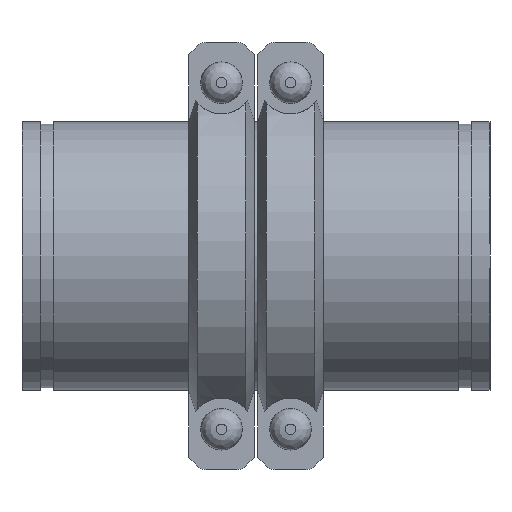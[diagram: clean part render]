
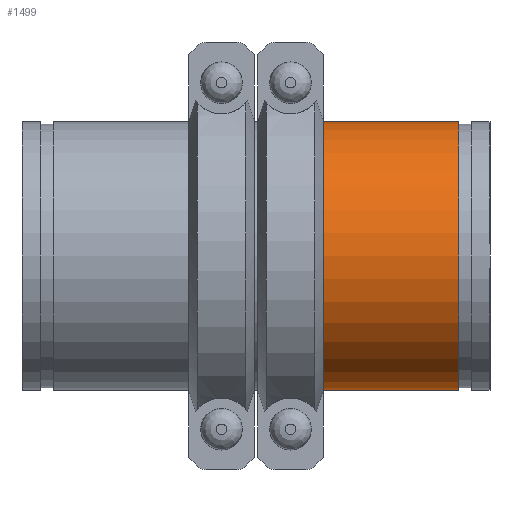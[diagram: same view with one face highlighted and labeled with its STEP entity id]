
A CAD part, front view. The second image highlights one B-rep face of the part: STEP entity #1499.
In plain terms, the highlighted cylindrical face has radius 136.525 mm (diameter 273.05 mm), a full revolution.
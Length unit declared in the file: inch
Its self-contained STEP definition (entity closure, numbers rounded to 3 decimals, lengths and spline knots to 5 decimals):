
#71=LINE('',#2396,#160);
#160=VECTOR('',#1941,5.375);
#249=CYLINDRICAL_SURFACE('',#1719,5.375);
#310=FACE_OUTER_BOUND('',#399,.T.);
#399=EDGE_LOOP('',(#980,#981,#982,#983,#984,#985));
#513=CIRCLE('',#1717,5.375);
#514=CIRCLE('',#1718,5.375);
#515=CIRCLE('',#1720,5.375);
#516=CIRCLE('',#1721,5.375);
#609=VERTEX_POINT('',#2387);
#610=VERTEX_POINT('',#2388);
#611=VERTEX_POINT('',#2392);
#612=VERTEX_POINT('',#2393);
#758=EDGE_CURVE('',#609,#610,#513,.T.);
#759=EDGE_CURVE('',#610,#609,#514,.T.);
#760=EDGE_CURVE('',#611,#612,#515,.T.);
#761=EDGE_CURVE('',#612,#611,#516,.T.);
#762=EDGE_CURVE('',#612,#610,#71,.T.);
#980=ORIENTED_EDGE('',*,*,#760,.F.);
#981=ORIENTED_EDGE('',*,*,#761,.F.);
#982=ORIENTED_EDGE('',*,*,#762,.T.);
#983=ORIENTED_EDGE('',*,*,#759,.T.);
#984=ORIENTED_EDGE('',*,*,#758,.T.);
#985=ORIENTED_EDGE('',*,*,#762,.F.);
#1499=ADVANCED_FACE('',(#310),#249,.T.);
#1717=AXIS2_PLACEMENT_3D('',#2389,#1931,#1932);
#1718=AXIS2_PLACEMENT_3D('',#2390,#1933,#1934);
#1719=AXIS2_PLACEMENT_3D('',#2391,#1935,#1936);
#1720=AXIS2_PLACEMENT_3D('',#2394,#1937,#1938);
#1721=AXIS2_PLACEMENT_3D('',#2395,#1939,#1940);
#1931=DIRECTION('center_axis',(-1.,0.,0.));
#1932=DIRECTION('ref_axis',(0.,0.,1.));
#1933=DIRECTION('center_axis',(-1.,0.,0.));
#1934=DIRECTION('ref_axis',(0.,0.,1.));
#1935=DIRECTION('center_axis',(-1.,0.,0.));
#1936=DIRECTION('ref_axis',(0.,1.,0.));
#1937=DIRECTION('center_axis',(-1.,0.,0.));
#1938=DIRECTION('ref_axis',(0.,0.,1.));
#1939=DIRECTION('center_axis',(-1.,0.,0.));
#1940=DIRECTION('ref_axis',(0.,0.,1.));
#1941=DIRECTION('',(1.,0.,0.));
#2387=CARTESIAN_POINT('',(2.735,5.375,0.));
#2388=CARTESIAN_POINT('',(2.735,-5.375,0.));
#2389=CARTESIAN_POINT('Origin',(2.735,0.,0.));
#2390=CARTESIAN_POINT('Origin',(2.735,0.,0.));
#2391=CARTESIAN_POINT('Origin',(0.,0.,
0.));
#2392=CARTESIAN_POINT('',(-2.735,5.375,0.));
#2393=CARTESIAN_POINT('',(-2.735,-5.375,0.));
#2394=CARTESIAN_POINT('Origin',(-2.735,0.,0.));
#2395=CARTESIAN_POINT('Origin',(-2.735,0.,0.));
#2396=CARTESIAN_POINT('',(0.,-5.375,0.));
